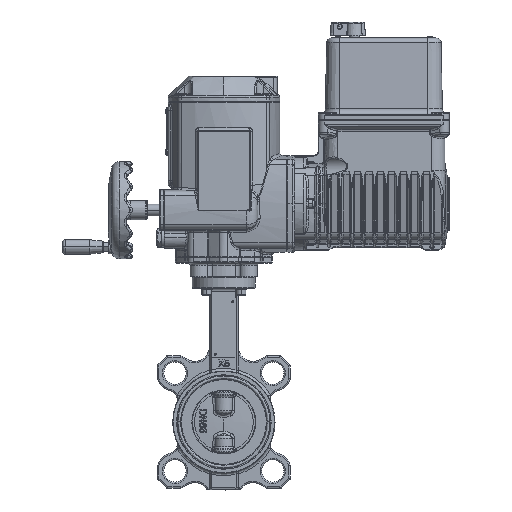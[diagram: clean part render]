
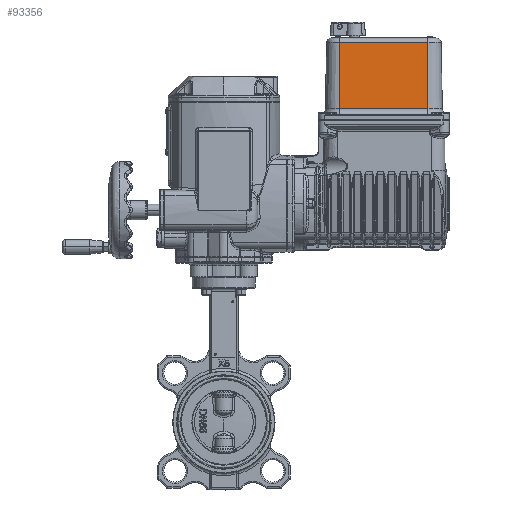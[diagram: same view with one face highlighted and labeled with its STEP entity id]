
A CAD part, top view. The second image highlights one B-rep face of the part: STEP entity #93356.
In plain terms, the highlighted planar face has unit normal (0, 0.018, 1).
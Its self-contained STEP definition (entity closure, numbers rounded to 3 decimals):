
#8 = EDGE_CURVE ( 'NONE', #23390, #73437, #130986, .T. ) ;
#5804 = VECTOR ( 'NONE', #123958, 1000. ) ;
#16602 = CARTESIAN_POINT ( 'NONE',  ( 119.501, 311., 52.996 ) ) ;
#23390 = VERTEX_POINT ( 'NONE', #48535 ) ;
#31583 = DIRECTION ( 'NONE',  ( 0., -1., 0.017 ) ) ;
#39404 = EDGE_CURVE ( 'NONE', #125559, #23390, #181358, .T. ) ;
#46471 = CARTESIAN_POINT ( 'NONE',  ( 210.501, 311., 52.994 ) ) ;
#48535 = CARTESIAN_POINT ( 'NONE',  ( 119.501, 322.895, 52.788 ) ) ;
#51587 = CARTESIAN_POINT ( 'NONE',  ( 119.501, 391.087, 51.598 ) ) ;
#58895 = FACE_OUTER_BOUND ( 'NONE', #193664, .T. ) ;
#73437 = VERTEX_POINT ( 'NONE', #107929 ) ;
#89889 = ORIENTED_EDGE ( 'NONE', *, *, #211189, .F. ) ;
#91266 = AXIS2_PLACEMENT_3D ( 'NONE', #46471, #143977, #160273 ) ;
#92824 = PLANE ( 'NONE',  #91266 ) ;
#93286 = VECTOR ( 'NONE', #207830, 1000. ) ;
#93356 = ADVANCED_FACE ( 'NONE', ( #58895 ), #92824, .T. ) ;
#93965 = CARTESIAN_POINT ( 'NONE',  ( 210.501, 311., 52.994 ) ) ;
#95561 = DIRECTION ( 'NONE',  ( 1., 0., 0. ) ) ;
#98006 = CARTESIAN_POINT ( 'NONE',  ( 210.501, 391.087, 51.596 ) ) ;
#107929 = CARTESIAN_POINT ( 'NONE',  ( 210.501, 322.895, 52.786 ) ) ;
#109802 = EDGE_CURVE ( 'NONE', #111436, #125559, #148434, .T. ) ;
#110339 = VECTOR ( 'NONE', #31583, 1000. ) ;
#111221 = CARTESIAN_POINT ( 'NONE',  ( 210.501, 322.895, 52.786 ) ) ;
#111436 = VERTEX_POINT ( 'NONE', #98006 ) ;
#123958 = DIRECTION ( 'NONE',  ( -1., 0., 0. ) ) ;
#125559 = VERTEX_POINT ( 'NONE', #51587 ) ;
#126696 = CARTESIAN_POINT ( 'NONE',  ( 119.501, 391.087, 51.598 ) ) ;
#130986 = LINE ( 'NONE', #111221, #148847 ) ;
#136473 = LINE ( 'NONE', #93965, #93286 ) ;
#142028 = ORIENTED_EDGE ( 'NONE', *, *, #39404, .T. ) ;
#143977 = DIRECTION ( 'NONE',  ( 0., 0.017, 1. ) ) ;
#144758 = ORIENTED_EDGE ( 'NONE', *, *, #8, .T. ) ;
#148434 = LINE ( 'NONE', #126696, #5804 ) ;
#148847 = VECTOR ( 'NONE', #95561, 1000. ) ;
#158490 = ORIENTED_EDGE ( 'NONE', *, *, #109802, .T. ) ;
#160273 = DIRECTION ( 'NONE',  ( 0., -1., 0.017 ) ) ;
#181358 = LINE ( 'NONE', #16602, #110339 ) ;
#193664 = EDGE_LOOP ( 'NONE', ( #89889, #158490, #142028, #144758 ) ) ;
#207830 = DIRECTION ( 'NONE',  ( 0., -1., 0.017 ) ) ;
#211189 = EDGE_CURVE ( 'NONE', #111436, #73437, #136473, .T. ) ;
